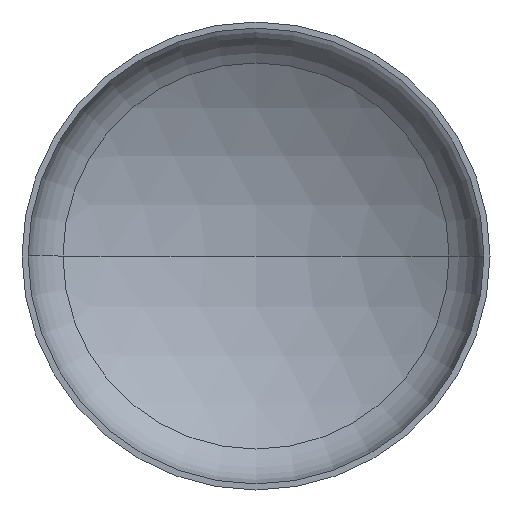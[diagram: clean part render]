
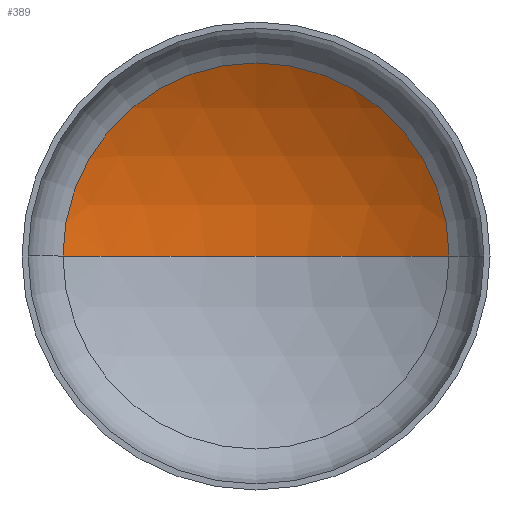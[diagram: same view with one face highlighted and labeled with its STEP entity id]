
A CAD part, front view. The second image highlights one B-rep face of the part: STEP entity #389.
In plain terms, the highlighted spherical face has radius 3040 mm.
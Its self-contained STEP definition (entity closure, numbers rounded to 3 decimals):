
#14 = AXIS2_PLACEMENT_3D ( 'NONE', #100, #101, #205 ) ;
#16 = AXIS2_PLACEMENT_3D ( 'NONE', #391, #106, #69 ) ;
#20 = AXIS2_PLACEMENT_3D ( 'NONE', #73, #99, #94 ) ;
#37 = CARTESIAN_POINT ( 'NONE',  ( 1567.674, 651.216, 0. ) ) ;
#69 = DIRECTION ( 'NONE',  ( 1., 0., 0. ) ) ;
#72 = ORIENTED_EDGE ( 'NONE', *, *, #319, .F. ) ;
#73 = CARTESIAN_POINT ( 'NONE',  ( 0., -1953.395, 0. ) ) ;
#94 = DIRECTION ( 'NONE',  ( -1., 0., 0. ) ) ;
#99 = DIRECTION ( 'NONE',  ( 0., 0., -1. ) ) ;
#100 = CARTESIAN_POINT ( 'NONE',  ( 0., -1953.395, 0. ) ) ;
#101 = DIRECTION ( 'NONE',  ( 0., 0., 1. ) ) ;
#106 = DIRECTION ( 'NONE',  ( 0., -1., 0. ) ) ;
#108 = ORIENTED_EDGE ( 'NONE', *, *, #317, .T. ) ;
#118 = CARTESIAN_POINT ( 'NONE',  ( 0., -1953.395, 0. ) ) ;
#139 = VERTEX_POINT ( 'NONE', #262 ) ;
#148 = AXIS2_PLACEMENT_3D ( 'NONE', #118, #211, #402 ) ;
#153 = VERTEX_POINT ( 'NONE', #176 ) ;
#172 = CIRCLE ( 'NONE', #16, 1567.674 ) ;
#176 = CARTESIAN_POINT ( 'NONE',  ( -1567.674, 651.216, 0. ) ) ;
#205 = DIRECTION ( 'NONE',  ( 1., 0., 0. ) ) ;
#211 = DIRECTION ( 'NONE',  ( 0., 0., -1. ) ) ;
#247 = CIRCLE ( 'NONE', #14, 3040. ) ;
#254 = CIRCLE ( 'NONE', #20, 3040. ) ;
#262 = CARTESIAN_POINT ( 'NONE',  ( 0., 1086.605, 0. ) ) ;
#291 = ORIENTED_EDGE ( 'NONE', *, *, #313, .T. ) ;
#304 = SPHERICAL_SURFACE ( 'NONE', #148, 3040. ) ;
#313 = EDGE_CURVE ( 'NONE', #396, #153, #172, .T. ) ;
#317 = EDGE_CURVE ( 'NONE', #139, #396, #254, .T. ) ;
#319 = EDGE_CURVE ( 'NONE', #139, #153, #247, .T. ) ;
#337 = EDGE_LOOP ( 'NONE', ( #72, #108, #291 ) ) ;
#386 = FACE_OUTER_BOUND ( 'NONE', #337, .T. ) ;
#389 = ADVANCED_FACE ( 'NONE', ( #386 ), #304, .F. ) ;
#391 = CARTESIAN_POINT ( 'NONE',  ( 0., 651.216, 0. ) ) ;
#396 = VERTEX_POINT ( 'NONE', #37 ) ;
#402 = DIRECTION ( 'NONE',  ( -1., 0., 0. ) ) ;
